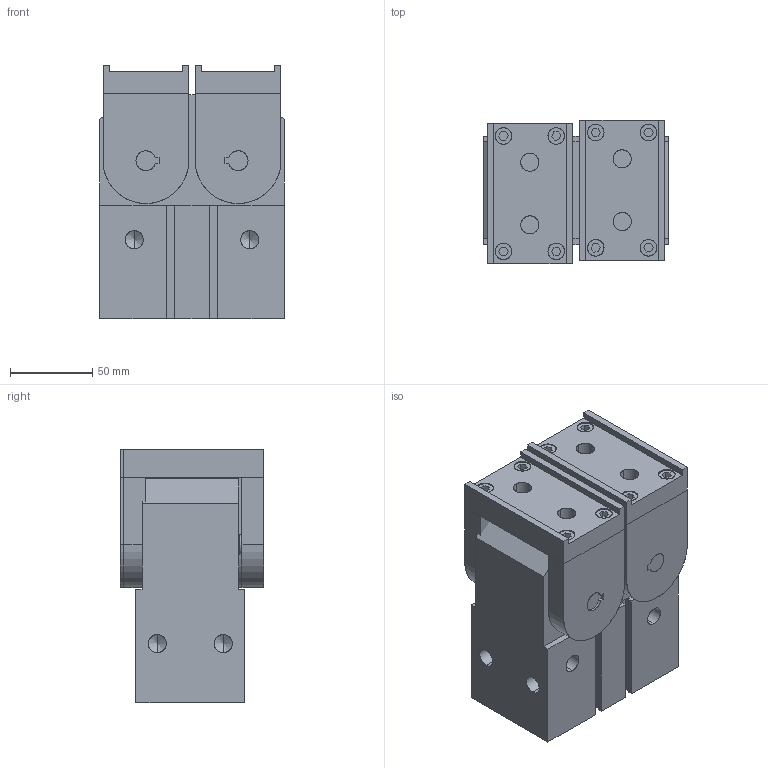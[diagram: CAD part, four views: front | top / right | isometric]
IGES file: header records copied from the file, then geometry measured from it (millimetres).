
Start section: SolidWorks IGES file using analytic representation for surfaces
Global section: file name: C:\Documents and Settings\1EDPI\Mes documents\Kevin 17.01.13\ghk\ghk50\GHK 50 close.IGS; native system: SolidWorks 2010; preprocessor: SolidWorks 2010; author: 1EDPI; date: 130304.105449; units: millimetre
Bounding box: 112 x 87.08 x 154 mm (x, y, z)
Surface area: 144248.2 mm2 (no closed solid volume)
Topology: 0 solids, 0 shells, 283 faces, 3500 edges, 3480 vertices
Faces by surface type: bspline 189, revolution 94
